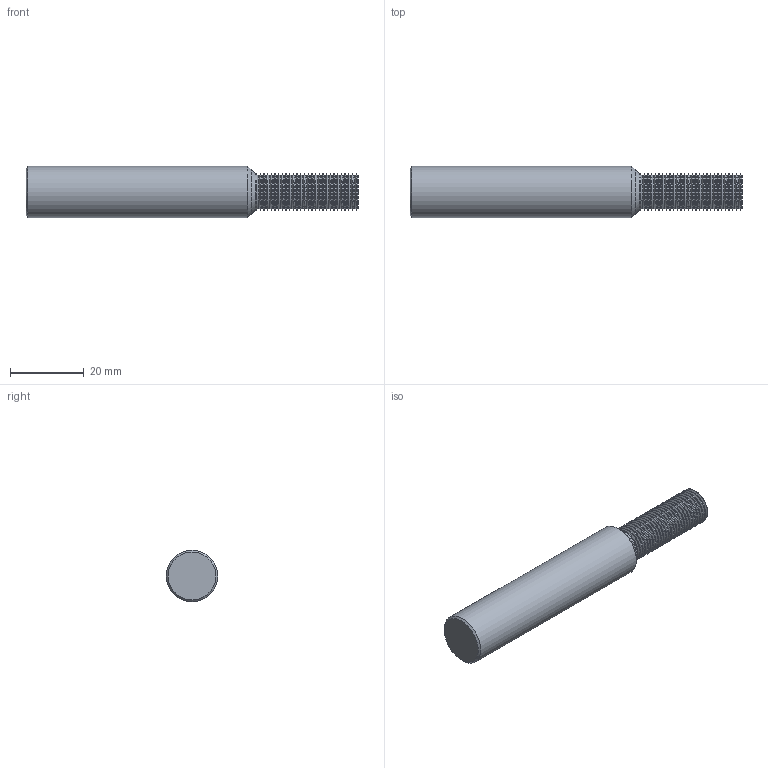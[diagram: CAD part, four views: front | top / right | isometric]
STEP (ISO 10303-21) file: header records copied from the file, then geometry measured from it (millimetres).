
FILE_DESCRIPTION(/* description */ (''),/* implementation_level */ '2;1');
FILE_NAME(/* name */ '00036362-TDM',/* time_stamp */ '2024-02-14T08:45:12+01:00',/* author */ (''),/* organization */ (''),/* preprocessor_version */ 'ST-DEVELOPER v16.5',/* originating_system */ 'HiCAD 2017 2201.0 Build 268',/* authorisation */ '');
FILE_SCHEMA (('AUTOMOTIVE_DESIGN { 1 0 10303 214 1 1 1 1 }'));
Length unit declared in the file: millimetre
Products named in the file (3): Root; ROTATIONSTEIL_0
Assembly tree (2 placements, depth 3):
  Root
    ROTATIONSTEIL_0
      ROTATIONSTEIL_0
Bounding box: 90 x 14 x 14 mm (x, y, z)
Volume: 11360.4 mm3; surface area: 4476.7 mm2
Topology: 2 solids, 2 shells, 174 faces, 345 edges, 175 vertices
Faces by surface type: cone 58, cylinder 57, torus 55, plane 4
Full cylindrical faces by diameter (mm): 8.832 x28, 9.9 x28, 14 x1
Entity records: 5244 total; most frequent: DIRECTION 700, CARTESIAN_POINT 522, AXIS2_PLACEMENT_3D 350, PRESENTATION_STYLE_ASSIGNMENT 346, COLOUR_RGB 346, DRAUGHTING_PRE_DEFINED_CURVE_FONT 344, CURVE_STYLE 344, OVER_RIDING_STYLED_ITEM 344
